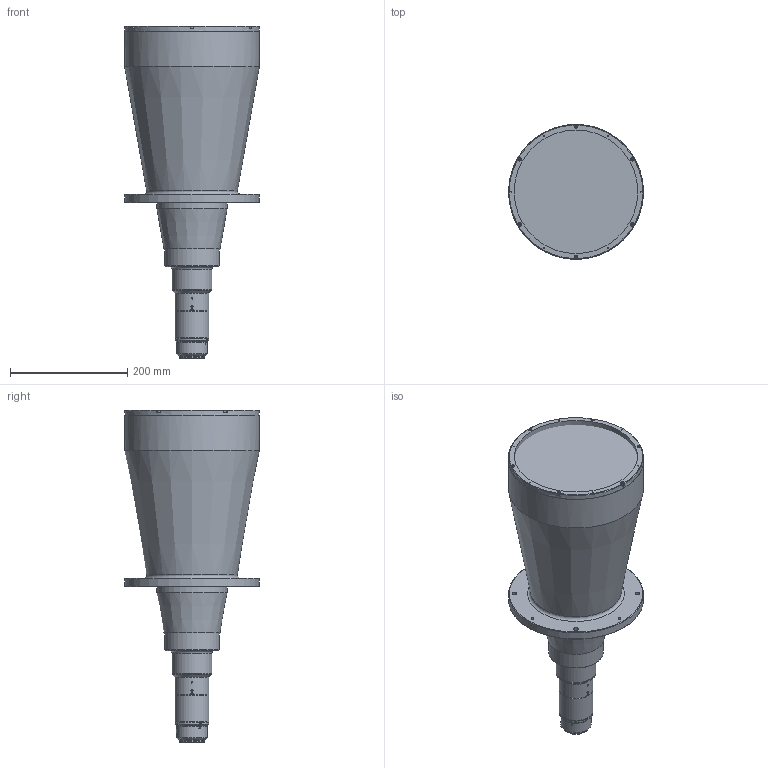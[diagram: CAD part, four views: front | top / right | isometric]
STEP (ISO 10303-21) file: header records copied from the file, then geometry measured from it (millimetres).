
FILE_DESCRIPTION (( 'STEP AP203' ), '1' );
FILE_NAME ('3d_mtl-19523p-012_a002.STEP', '2017-06-22T04:19:32', ( '' ), ( '' ), 'SwSTEP 2.0', 'SolidWorks 2014', '' );
FILE_SCHEMA (( 'CONFIG_CONTROL_DESIGN' ));
Length unit declared in the file: millimetre
Products named in the file (1): 3d_mtl-19523p-012_a002
Bounding box: 230 x 230 x 566.66 mm (x, y, z)
Volume: 10369470.5 mm3; surface area: 383899.2 mm2
Topology: 1 solids, 9 shells, 784 faces, 1807 edges, 1097 vertices
Faces by surface type: plane 476, cone 182, cylinder 87, torus 31, sphere 8
Full cylindrical faces by diameter (mm): 1.5 x6, 1.6 x4, 2.5 x3, 3.2 x4, 3.5 x8, 3.8 x3, 5 x4, 5.5 x6, 7 x4, 8 x8, 28 x1, 32.5 x1, 36.5 x1, 38 x2, 39 x1, 40.916 x1, 42 x2, 44 x1, 45 x1, 53 x1, 57 x1, 58 x3, 64.852 x1, 68 x2, 84.5 x1, 93 x1, 120 x1, 211 x1, 229.8 x1, 230 x2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
Entity records: 21315 total; most frequent: CARTESIAN_POINT 4624, DIRECTION 3594, ORIENTED_EDGE 3088, EDGE_CURVE 1544, AXIS2_PLACEMENT_3D 1439, EDGE_LOOP 1057, VERTEX_POINT 1021, FACE_OUTER_BOUND 898
